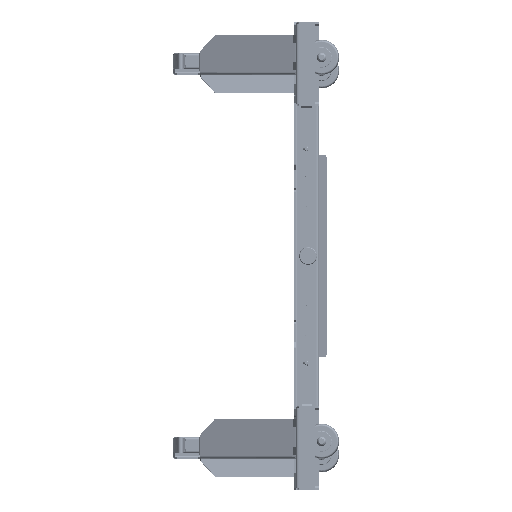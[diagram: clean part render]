
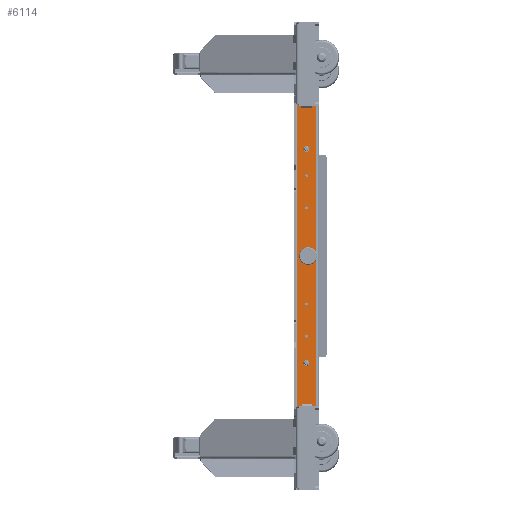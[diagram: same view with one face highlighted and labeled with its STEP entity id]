
A CAD part, left-side view. The second image highlights one B-rep face of the part: STEP entity #6114.
In plain terms, the highlighted planar face has unit normal (-1, 0, 0) as drawn and (0, 0, 1) by its records, which use the part's own axes.
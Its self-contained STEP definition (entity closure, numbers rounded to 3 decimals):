
#2969=DIRECTION('',(1.,0.,0.));
#2970=VECTOR('',#2969,675.);
#2971=CARTESIAN_POINT('',(-337.5,5.1,0.));
#2972=LINE('',#2971,#2970);
#3578=DIRECTION('',(-0.707,-0.707,0.));
#3579=VECTOR('',#3578,4.243);
#3580=CARTESIAN_POINT('',(437.5,8.1,0.));
#3581=LINE('',#3580,#3579);
#3585=DIRECTION('',(-1.,0.,0.));
#3586=VECTOR('',#3585,97.);
#3587=CARTESIAN_POINT('',(-337.5,5.1,0.));
#3588=LINE('',#3587,#3586);
#3592=DIRECTION('',(-0.707,0.707,0.));
#3593=VECTOR('',#3592,4.243);
#3594=CARTESIAN_POINT('',(-434.5,5.1,0.));
#3595=LINE('',#3594,#3593);
#3599=DIRECTION('',(0.,1.,0.));
#3600=VECTOR('',#3599,32.8);
#3601=CARTESIAN_POINT('',(-437.5,8.1,0.));
#3602=LINE('',#3601,#3600);
#3606=CARTESIAN_POINT('',(200.,23.24,0.));
#3607=DIRECTION('',(0.,0.,1.));
#3608=DIRECTION('',(-1.,0.,0.));
#3609=AXIS2_PLACEMENT_3D('',#3606,#3607,#3608);
#3614=CARTESIAN_POINT('',(200.,23.24,0.));
#3615=DIRECTION('',(0.,0.,1.));
#3616=DIRECTION('',(1.,0.,0.));
#3617=AXIS2_PLACEMENT_3D('',#3614,#3615,#3616);
#3622=CARTESIAN_POINT('',(0.,20.24,0.));
#3623=DIRECTION('',(0.,0.,1.));
#3624=DIRECTION('',(-1.,0.,0.));
#3625=AXIS2_PLACEMENT_3D('',#3622,#3623,#3624);
#3630=CARTESIAN_POINT('',(0.,20.24,0.));
#3631=DIRECTION('',(0.,0.,1.));
#3632=DIRECTION('',(1.,0.,0.));
#3633=AXIS2_PLACEMENT_3D('',#3630,#3631,#3632);
#3638=CARTESIAN_POINT('',(150.,23.,0.));
#3639=DIRECTION('',(0.,0.,1.));
#3640=DIRECTION('',(-1.,0.,0.));
#3641=AXIS2_PLACEMENT_3D('',#3638,#3639,#3640);
#3646=CARTESIAN_POINT('',(150.,23.,0.));
#3647=DIRECTION('',(0.,0.,1.));
#3648=DIRECTION('',(1.,0.,0.));
#3649=AXIS2_PLACEMENT_3D('',#3646,#3647,#3648);
#3654=CARTESIAN_POINT('',(90.,23.,0.));
#3655=DIRECTION('',(0.,0.,1.));
#3656=DIRECTION('',(-1.,0.,0.));
#3657=AXIS2_PLACEMENT_3D('',#3654,#3655,#3656);
#3662=CARTESIAN_POINT('',(90.,23.,0.));
#3663=DIRECTION('',(0.,0.,1.));
#3664=DIRECTION('',(1.,0.,0.));
#3665=AXIS2_PLACEMENT_3D('',#3662,#3663,#3664);
#3670=CARTESIAN_POINT('',(320.,23.,0.));
#3671=DIRECTION('',(0.,0.,1.));
#3672=DIRECTION('',(-1.,0.,0.));
#3673=AXIS2_PLACEMENT_3D('',#3670,#3671,#3672);
#3678=CARTESIAN_POINT('',(320.,23.,0.));
#3679=DIRECTION('',(0.,0.,1.));
#3680=DIRECTION('',(1.,0.,0.));
#3681=AXIS2_PLACEMENT_3D('',#3678,#3679,#3680);
#3686=CARTESIAN_POINT('',(380.,23.,0.));
#3687=DIRECTION('',(0.,0.,1.));
#3688=DIRECTION('',(-1.,0.,0.));
#3689=AXIS2_PLACEMENT_3D('',#3686,#3687,#3688);
#3694=CARTESIAN_POINT('',(380.,23.,0.));
#3695=DIRECTION('',(0.,0.,1.));
#3696=DIRECTION('',(1.,0.,0.));
#3697=AXIS2_PLACEMENT_3D('',#3694,#3695,#3696);
#3702=CARTESIAN_POINT('',(-150.,23.,0.));
#3703=DIRECTION('',(0.,0.,1.));
#3704=DIRECTION('',(-1.,0.,0.));
#3705=AXIS2_PLACEMENT_3D('',#3702,#3703,#3704);
#3710=CARTESIAN_POINT('',(-150.,23.,0.));
#3711=DIRECTION('',(0.,0.,1.));
#3712=DIRECTION('',(1.,0.,0.));
#3713=AXIS2_PLACEMENT_3D('',#3710,#3711,#3712);
#3718=CARTESIAN_POINT('',(-90.,23.,0.));
#3719=DIRECTION('',(0.,0.,1.));
#3720=DIRECTION('',(-1.,0.,0.));
#3721=AXIS2_PLACEMENT_3D('',#3718,#3719,#3720);
#3726=CARTESIAN_POINT('',(-90.,23.,0.));
#3727=DIRECTION('',(0.,0.,1.));
#3728=DIRECTION('',(1.,0.,0.));
#3729=AXIS2_PLACEMENT_3D('',#3726,#3727,#3728);
#3734=CARTESIAN_POINT('',(-320.,23.,0.));
#3735=DIRECTION('',(0.,0.,1.));
#3736=DIRECTION('',(-1.,0.,0.));
#3737=AXIS2_PLACEMENT_3D('',#3734,#3735,#3736);
#3742=CARTESIAN_POINT('',(-320.,23.,0.));
#3743=DIRECTION('',(0.,0.,1.));
#3744=DIRECTION('',(1.,0.,0.));
#3745=AXIS2_PLACEMENT_3D('',#3742,#3743,#3744);
#3750=CARTESIAN_POINT('',(-380.,23.,0.));
#3751=DIRECTION('',(0.,0.,1.));
#3752=DIRECTION('',(-1.,0.,0.));
#3753=AXIS2_PLACEMENT_3D('',#3750,#3751,#3752);
#3758=CARTESIAN_POINT('',(-380.,23.,0.));
#3759=DIRECTION('',(0.,0.,1.));
#3760=DIRECTION('',(1.,0.,0.));
#3761=AXIS2_PLACEMENT_3D('',#3758,#3759,#3760);
#3766=CARTESIAN_POINT('',(-200.,23.24,0.));
#3767=DIRECTION('',(0.,0.,1.));
#3768=DIRECTION('',(-1.,0.,0.));
#3769=AXIS2_PLACEMENT_3D('',#3766,#3767,#3768);
#3774=CARTESIAN_POINT('',(-200.,23.24,0.));
#3775=DIRECTION('',(0.,0.,1.));
#3776=DIRECTION('',(1.,0.,0.));
#3777=AXIS2_PLACEMENT_3D('',#3774,#3775,#3776);
#3796=DIRECTION('',(1.,0.,0.));
#3797=VECTOR('',#3796,97.);
#3798=CARTESIAN_POINT('',(337.5,5.1,0.));
#3799=LINE('',#3798,#3797);
#4093=DIRECTION('',(0.,1.,0.));
#4094=VECTOR('',#4093,32.8);
#4095=CARTESIAN_POINT('',(437.5,8.1,0.));
#4096=LINE('',#4095,#4094);
#4114=DIRECTION('',(-1.,0.,0.));
#4115=VECTOR('',#4114,875.);
#4116=CARTESIAN_POINT('',(437.5,40.9,0.));
#4117=LINE('',#4116,#4115);
#4766=CARTESIAN_POINT('',(337.5,5.1,0.));
#4767=VERTEX_POINT('',#4766);
#4770=CARTESIAN_POINT('',(-337.5,5.1,0.));
#4771=VERTEX_POINT('',#4770);
#4858=CARTESIAN_POINT('',(-194.5,23.24,0.));
#4859=CARTESIAN_POINT('',(-205.5,23.24,0.));
#4860=VERTEX_POINT('',#4858);
#4861=VERTEX_POINT('',#4859);
#4862=CARTESIAN_POINT('',(437.5,8.1,0.));
#4863=CARTESIAN_POINT('',(434.5,5.1,0.));
#4864=VERTEX_POINT('',#4862);
#4865=VERTEX_POINT('',#4863);
#4866=CARTESIAN_POINT('',(-434.5,5.1,0.));
#4867=VERTEX_POINT('',#4866);
#4868=CARTESIAN_POINT('',(-437.5,8.1,0.));
#4869=VERTEX_POINT('',#4868);
#4870=CARTESIAN_POINT('',(-437.5,40.9,0.));
#4871=VERTEX_POINT('',#4870);
#4872=CARTESIAN_POINT('',(437.5,40.9,0.));
#4873=VERTEX_POINT('',#4872);
#4874=CARTESIAN_POINT('',(194.5,23.24,0.));
#4875=CARTESIAN_POINT('',(205.5,23.24,0.));
#4876=VERTEX_POINT('',#4874);
#4877=VERTEX_POINT('',#4875);
#4878=CARTESIAN_POINT('',(-8.1,20.24,0.));
#4879=CARTESIAN_POINT('',(8.1,20.24,0.));
#4880=VERTEX_POINT('',#4878);
#4881=VERTEX_POINT('',#4879);
#4882=CARTESIAN_POINT('',(147.25,23.,0.));
#4883=CARTESIAN_POINT('',(152.75,23.,0.));
#4884=VERTEX_POINT('',#4882);
#4885=VERTEX_POINT('',#4883);
#4886=CARTESIAN_POINT('',(87.25,23.,0.));
#4887=CARTESIAN_POINT('',(92.75,23.,0.));
#4888=VERTEX_POINT('',#4886);
#4889=VERTEX_POINT('',#4887);
#4890=CARTESIAN_POINT('',(317.25,23.,0.));
#4891=CARTESIAN_POINT('',(322.75,23.,0.));
#4892=VERTEX_POINT('',#4890);
#4893=VERTEX_POINT('',#4891);
#4894=CARTESIAN_POINT('',(377.25,23.,0.));
#4895=CARTESIAN_POINT('',(382.75,23.,0.));
#4896=VERTEX_POINT('',#4894);
#4897=VERTEX_POINT('',#4895);
#4898=CARTESIAN_POINT('',(-152.75,23.,0.));
#4899=CARTESIAN_POINT('',(-147.25,23.,0.));
#4900=VERTEX_POINT('',#4898);
#4901=VERTEX_POINT('',#4899);
#4902=CARTESIAN_POINT('',(-92.75,23.,0.));
#4903=CARTESIAN_POINT('',(-87.25,23.,0.));
#4904=VERTEX_POINT('',#4902);
#4905=VERTEX_POINT('',#4903);
#4906=CARTESIAN_POINT('',(-322.75,23.,0.));
#4907=CARTESIAN_POINT('',(-317.25,23.,0.));
#4908=VERTEX_POINT('',#4906);
#4909=VERTEX_POINT('',#4907);
#4910=CARTESIAN_POINT('',(-382.75,23.,0.));
#4911=CARTESIAN_POINT('',(-377.25,23.,0.));
#4912=VERTEX_POINT('',#4910);
#4913=VERTEX_POINT('',#4911);
#6027=CARTESIAN_POINT('',(-437.5,46.,0.));
#6028=DIRECTION('',(0.,0.,1.));
#6029=DIRECTION('',(0.,-1.,0.));
#6030=AXIS2_PLACEMENT_3D('',#6027,#6028,#6029);
#6031=PLANE('',#6030);
#6032=ORIENTED_EDGE('',*,*,#6010,.T.);
#6034=ORIENTED_EDGE('',*,*,#6033,.F.);
#6035=ORIENTED_EDGE('',*,*,#5298,.F.);
#6037=ORIENTED_EDGE('',*,*,#6036,.T.);
#6039=ORIENTED_EDGE('',*,*,#6038,.T.);
#6041=ORIENTED_EDGE('',*,*,#6040,.T.);
#6043=ORIENTED_EDGE('',*,*,#6042,.F.);
#6045=ORIENTED_EDGE('',*,*,#6044,.F.);
#6046=EDGE_LOOP('',(#6032,#6034,#6035,#6037,#6039,#6041,#6043,#6045));
#6047=FACE_OUTER_BOUND('',#6046,.F.);
#6049=ORIENTED_EDGE('',*,*,#6048,.T.);
#6051=ORIENTED_EDGE('',*,*,#6050,.T.);
#6052=EDGE_LOOP('',(#6049,#6051));
#6053=FACE_BOUND('',#6052,.F.);
#6055=ORIENTED_EDGE('',*,*,#6054,.T.);
#6057=ORIENTED_EDGE('',*,*,#6056,.T.);
#6058=EDGE_LOOP('',(#6055,#6057));
#6059=FACE_BOUND('',#6058,.F.);
#6061=ORIENTED_EDGE('',*,*,#6060,.T.);
#6063=ORIENTED_EDGE('',*,*,#6062,.T.);
#6064=EDGE_LOOP('',(#6061,#6063));
#6065=FACE_BOUND('',#6064,.F.);
#6067=ORIENTED_EDGE('',*,*,#6066,.T.);
#6069=ORIENTED_EDGE('',*,*,#6068,.T.);
#6070=EDGE_LOOP('',(#6067,#6069));
#6071=FACE_BOUND('',#6070,.F.);
#6073=ORIENTED_EDGE('',*,*,#6072,.T.);
#6075=ORIENTED_EDGE('',*,*,#6074,.T.);
#6076=EDGE_LOOP('',(#6073,#6075));
#6077=FACE_BOUND('',#6076,.F.);
#6079=ORIENTED_EDGE('',*,*,#6078,.T.);
#6081=ORIENTED_EDGE('',*,*,#6080,.T.);
#6082=EDGE_LOOP('',(#6079,#6081));
#6083=FACE_BOUND('',#6082,.F.);
#6085=ORIENTED_EDGE('',*,*,#6084,.T.);
#6087=ORIENTED_EDGE('',*,*,#6086,.T.);
#6088=EDGE_LOOP('',(#6085,#6087));
#6089=FACE_BOUND('',#6088,.F.);
#6091=ORIENTED_EDGE('',*,*,#6090,.T.);
#6093=ORIENTED_EDGE('',*,*,#6092,.T.);
#6094=EDGE_LOOP('',(#6091,#6093));
#6095=FACE_BOUND('',#6094,.F.);
#6097=ORIENTED_EDGE('',*,*,#6096,.T.);
#6099=ORIENTED_EDGE('',*,*,#6098,.T.);
#6100=EDGE_LOOP('',(#6097,#6099));
#6101=FACE_BOUND('',#6100,.F.);
#6103=ORIENTED_EDGE('',*,*,#6102,.T.);
#6105=ORIENTED_EDGE('',*,*,#6104,.T.);
#6106=EDGE_LOOP('',(#6103,#6105));
#6107=FACE_BOUND('',#6106,.F.);
#6109=ORIENTED_EDGE('',*,*,#6108,.T.);
#6111=ORIENTED_EDGE('',*,*,#6110,.T.);
#6112=EDGE_LOOP('',(#6109,#6111));
#6113=FACE_BOUND('',#6112,.F.);
#3610=CIRCLE('',#3609,5.5);
#3618=CIRCLE('',#3617,5.5);
#3626=CIRCLE('',#3625,8.1);
#3634=CIRCLE('',#3633,8.1);
#3642=CIRCLE('',#3641,2.75);
#3650=CIRCLE('',#3649,2.75);
#3658=CIRCLE('',#3657,2.75);
#3666=CIRCLE('',#3665,2.75);
#3674=CIRCLE('',#3673,2.75);
#3682=CIRCLE('',#3681,2.75);
#3690=CIRCLE('',#3689,2.75);
#3698=CIRCLE('',#3697,2.75);
#3706=CIRCLE('',#3705,2.75);
#3714=CIRCLE('',#3713,2.75);
#3722=CIRCLE('',#3721,2.75);
#3730=CIRCLE('',#3729,2.75);
#3738=CIRCLE('',#3737,2.75);
#3746=CIRCLE('',#3745,2.75);
#3754=CIRCLE('',#3753,2.75);
#3762=CIRCLE('',#3761,2.75);
#3770=CIRCLE('',#3769,5.5);
#3778=CIRCLE('',#3777,5.5);
#5298=EDGE_CURVE('',#4771,#4767,#2972,.T.);
#6010=EDGE_CURVE('',#4864,#4865,#3581,.T.);
#6033=EDGE_CURVE('',#4767,#4865,#3799,.T.);
#6036=EDGE_CURVE('',#4771,#4867,#3588,.T.);
#6038=EDGE_CURVE('',#4867,#4869,#3595,.T.);
#6040=EDGE_CURVE('',#4869,#4871,#3602,.T.);
#6042=EDGE_CURVE('',#4873,#4871,#4117,.T.);
#6044=EDGE_CURVE('',#4864,#4873,#4096,.T.);
#6048=EDGE_CURVE('',#4876,#4877,#3610,.T.);
#6050=EDGE_CURVE('',#4877,#4876,#3618,.T.);
#6054=EDGE_CURVE('',#4880,#4881,#3626,.T.);
#6056=EDGE_CURVE('',#4881,#4880,#3634,.T.);
#6060=EDGE_CURVE('',#4884,#4885,#3642,.T.);
#6062=EDGE_CURVE('',#4885,#4884,#3650,.T.);
#6066=EDGE_CURVE('',#4888,#4889,#3658,.T.);
#6068=EDGE_CURVE('',#4889,#4888,#3666,.T.);
#6072=EDGE_CURVE('',#4892,#4893,#3674,.T.);
#6074=EDGE_CURVE('',#4893,#4892,#3682,.T.);
#6078=EDGE_CURVE('',#4896,#4897,#3690,.T.);
#6080=EDGE_CURVE('',#4897,#4896,#3698,.T.);
#6084=EDGE_CURVE('',#4900,#4901,#3706,.T.);
#6086=EDGE_CURVE('',#4901,#4900,#3714,.T.);
#6090=EDGE_CURVE('',#4904,#4905,#3722,.T.);
#6092=EDGE_CURVE('',#4905,#4904,#3730,.T.);
#6096=EDGE_CURVE('',#4908,#4909,#3738,.T.);
#6098=EDGE_CURVE('',#4909,#4908,#3746,.T.);
#6102=EDGE_CURVE('',#4912,#4913,#3754,.T.);
#6104=EDGE_CURVE('',#4913,#4912,#3762,.T.);
#6108=EDGE_CURVE('',#4861,#4860,#3770,.T.);
#6110=EDGE_CURVE('',#4860,#4861,#3778,.T.);
#6114=ADVANCED_FACE('',(#6047,#6053,#6059,#6065,#6071,#6077,#6083,#6089,#6095,
#6101,#6107,#6113),#6031,.T.);
